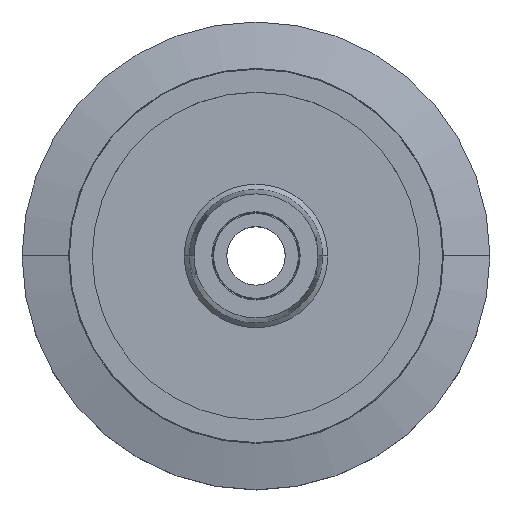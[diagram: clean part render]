
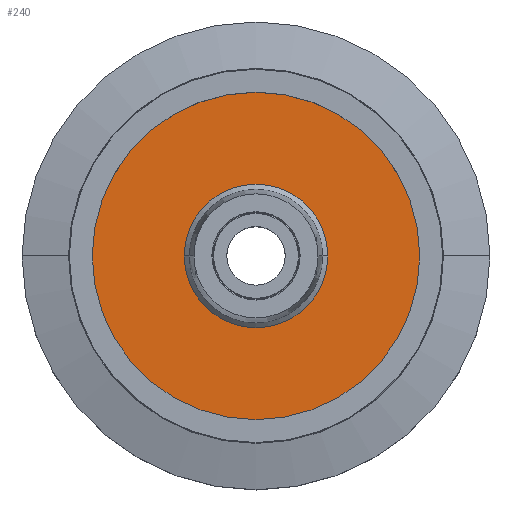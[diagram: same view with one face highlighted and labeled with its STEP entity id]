
A CAD part, top view. The second image highlights one B-rep face of the part: STEP entity #240.
In plain terms, the highlighted planar face has unit normal (0, 0, 1).
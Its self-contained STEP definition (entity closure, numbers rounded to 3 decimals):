
#2 = EDGE_CURVE ( 'NONE', #1363, #3, #437, .T. ) ;
#3 = VERTEX_POINT ( 'NONE', #432 ) ;
#240 = ADVANCED_FACE ( 'NONE', ( #869, #868 ), #867, .F. ) ;
#241 = ORIENTED_EDGE ( 'NONE', *, *, #242, .F. ) ;
#242 = EDGE_CURVE ( 'NONE', #3, #1363, #865, .T. ) ;
#243 = ORIENTED_EDGE ( 'NONE', *, *, #2, .F. ) ;
#244 = EDGE_LOOP ( 'NONE', ( #245, #246 ) ) ;
#245 = ORIENTED_EDGE ( 'NONE', *, *, #1382, .T. ) ;
#246 = ORIENTED_EDGE ( 'NONE', *, *, #262, .T. ) ;
#262 = EDGE_CURVE ( 'NONE', #1375, #1381, #645, .T. ) ;
#263 = EDGE_LOOP ( 'NONE', ( #241, #243 ) ) ;
#432 = CARTESIAN_POINT ( 'NONE',  ( -70., 0., 35. ) ) ;
#433 = DIRECTION ( 'NONE',  ( -1., 0., 0. ) ) ;
#434 = DIRECTION ( 'NONE',  ( 0., 0., -1. ) ) ;
#435 = CARTESIAN_POINT ( 'NONE',  ( 0., 0., 35. ) ) ;
#436 = AXIS2_PLACEMENT_3D ( 'NONE', #435, #434, #433 ) ;
#437 = CIRCLE ( 'NONE', #436, 70. ) ;
#644 = AXIS2_PLACEMENT_3D ( 'NONE', #896, #1354, #1355 ) ;
#645 = CIRCLE ( 'NONE', #644, 30.687 ) ;
#863 = DIRECTION ( 'NONE',  ( 0., 0., -1. ) ) ;
#864 = AXIS2_PLACEMENT_3D ( 'NONE', #866, #863, #923 ) ;
#865 = CIRCLE ( 'NONE', #922, 70. ) ;
#866 = CARTESIAN_POINT ( 'NONE',  ( 0., 30.687, 35. ) ) ;
#867 = PLANE ( 'NONE',  #864 ) ;
#868 = FACE_BOUND ( 'NONE', #244, .T. ) ;
#869 = FACE_OUTER_BOUND ( 'NONE', #263, .T. ) ;
#896 = CARTESIAN_POINT ( 'NONE',  ( 0., 0., 35. ) ) ;
#919 = DIRECTION ( 'NONE',  ( -1., 0., 0. ) ) ;
#920 = DIRECTION ( 'NONE',  ( 0., 0., -1. ) ) ;
#921 = CARTESIAN_POINT ( 'NONE',  ( 0., 0., 35. ) ) ;
#922 = AXIS2_PLACEMENT_3D ( 'NONE', #921, #920, #919 ) ;
#923 = DIRECTION ( 'NONE',  ( -1., 0., 0. ) ) ;
#1208 = CARTESIAN_POINT ( 'NONE',  ( -30.687, 0., 35. ) ) ;
#1209 = CIRCLE ( 'NONE', #1268, 30.687 ) ;
#1223 = CARTESIAN_POINT ( 'NONE',  ( 30.687, 0., 35. ) ) ;
#1236 = CARTESIAN_POINT ( 'NONE',  ( 70., 0., 35. ) ) ;
#1265 = DIRECTION ( 'NONE',  ( -1., 0., 0. ) ) ;
#1266 = DIRECTION ( 'NONE',  ( 0., 0., -1. ) ) ;
#1267 = CARTESIAN_POINT ( 'NONE',  ( 0., 0., 35. ) ) ;
#1268 = AXIS2_PLACEMENT_3D ( 'NONE', #1267, #1266, #1265 ) ;
#1354 = DIRECTION ( 'NONE',  ( 0., 0., -1. ) ) ;
#1355 = DIRECTION ( 'NONE',  ( -1., 0., 0. ) ) ;
#1363 = VERTEX_POINT ( 'NONE', #1236 ) ;
#1375 = VERTEX_POINT ( 'NONE', #1223 ) ;
#1381 = VERTEX_POINT ( 'NONE', #1208 ) ;
#1382 = EDGE_CURVE ( 'NONE', #1381, #1375, #1209, .T. ) ;
